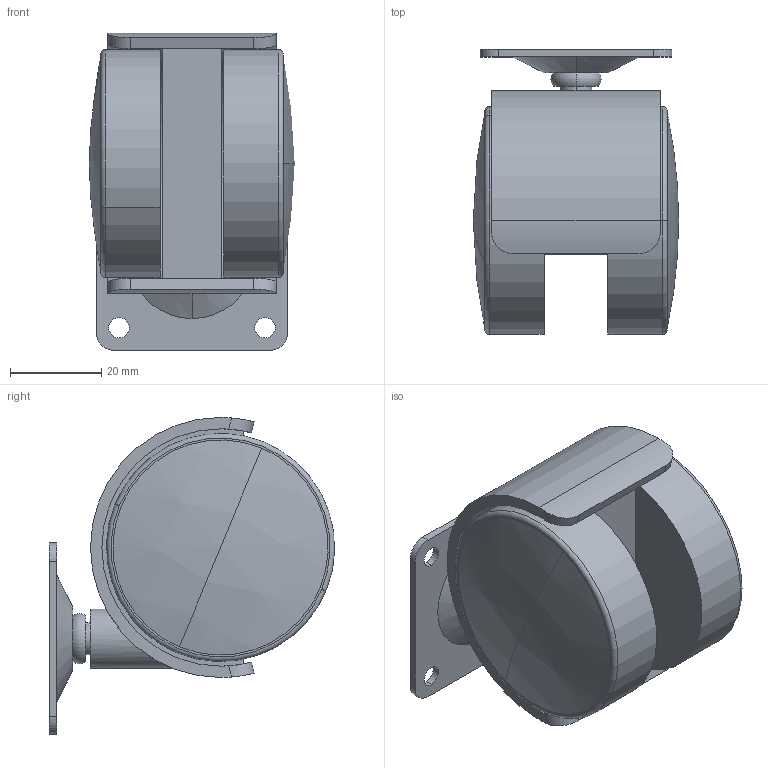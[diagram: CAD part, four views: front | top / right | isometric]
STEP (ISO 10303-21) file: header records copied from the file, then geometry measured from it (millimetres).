
FILE_DESCRIPTION (( 'STEP AP214' ), '1' );
FILE_NAME ('ERICA2-50-P.STEP', '2020-04-11T05:43:45', ( '' ), ( '' ), 'SwSTEP 2.0', 'SolidWorks 2019', '' );
FILE_SCHEMA (( 'AUTOMOTIVE_DESIGN' ));
Length unit declared in the file: millimetre
Products named in the file (4): ERICA2-50-P_partsA; ERICA2-50-P; ERICA2-50_wheel; ERICA2-50_partsB
Assembly tree (4 placements, depth 2):
  ERICA2-50-P
    ERICA2-50_partsB
    ERICA2-50_wheel  x2
    ERICA2-50-P_partsA
Bounding box: 45 x 62.5 x 69.5 mm (x, y, z)
Volume: 87073.7 mm3; surface area: 26263.7 mm2
Topology: 4 solids, 4 shells, 67 faces, 154 edges, 102 vertices
Faces by surface type: cylinder 33, plane 22, torus 6, sphere 4, cone 2
Entity records: 2138 total; most frequent: CARTESIAN_POINT 539, DIRECTION 336, ORIENTED_EDGE 280, EDGE_CURVE 140, AXIS2_PLACEMENT_3D 140, VERTEX_POINT 93, CIRCLE 74, EDGE_LOOP 73
